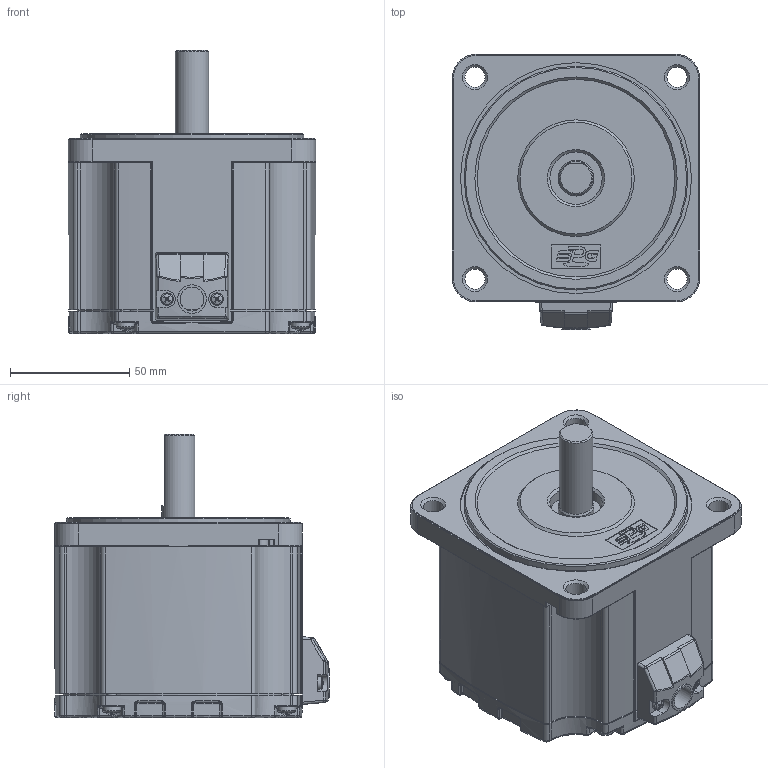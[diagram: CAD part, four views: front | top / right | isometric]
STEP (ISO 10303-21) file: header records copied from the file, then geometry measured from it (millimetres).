
FILE_DESCRIPTION((''),'2;1');
FILE_NAME('C:\Documents and Settings\Administrator\바탕 화면\BLDC 3D FILE\GEAR HEAD ASS''Y\60\MOTOR\104\104-D TYPE.stp','2014-06-19T12:54:23',('kdhkdh'),(''),'Autodesk Inventor 2011','Autodesk Inventor 2011','');
FILE_SCHEMA(('AUTOMOTIVE_DESIGN { 1 0 10303 214 1 1 1 1 }'));
Length unit declared in the file: millimetre
Products named in the file (1): 부품6
Bounding box: 104 x 115.5 x 119 mm (x, y, z)
Volume: 782011.3 mm3; surface area: 108156.2 mm2
Topology: 1 solids, 8 shells, 785 faces, 1970 edges, 1163 vertices
Faces by surface type: cylinder 247, plane 204, torus 122, bspline 95, cone 83, sphere 34
Full cylindrical faces by diameter (mm): 2.729 x2, 3 x2, 3.5 x2, 3.621 x4, 4 x8, 4.5 x4, 5.3 x2, 7.64 x4, 8.5 x4, 10 x1, 12 x1, 14 x1, 15 x1, 22 x1, 81 x1, 94 x1, 95.185 x1, 97 x2
Entity records: 25929 total; most frequent: CARTESIAN_POINT 8231, DIRECTION 3678, ORIENTED_EDGE 3588, EDGE_CURVE 1794, AXIS2_PLACEMENT_3D 1525, VERTEX_POINT 1131, EDGE_LOOP 915, CIRCLE 808
